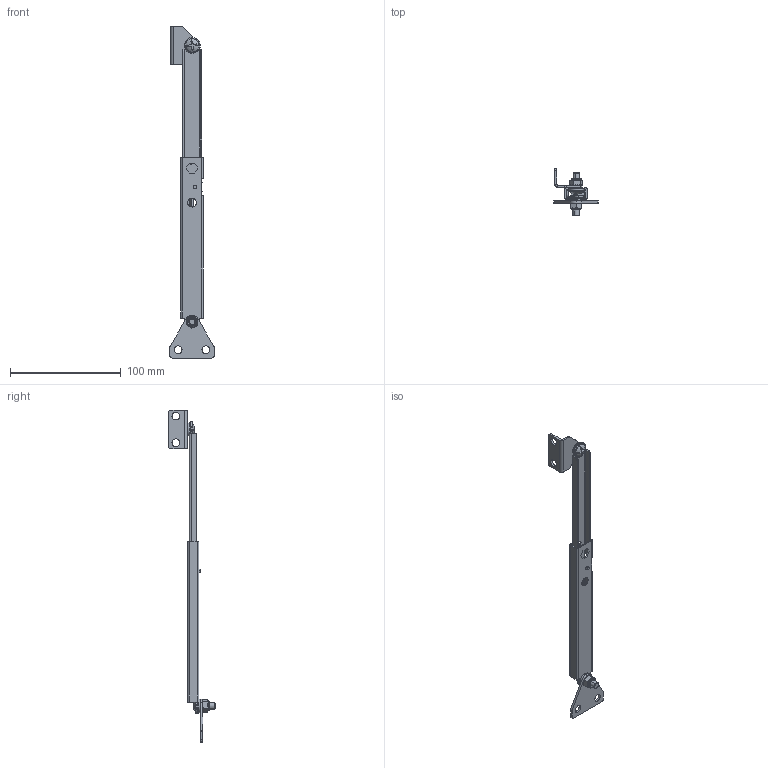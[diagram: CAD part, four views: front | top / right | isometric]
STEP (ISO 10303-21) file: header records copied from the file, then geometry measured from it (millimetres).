
FILE_DESCRIPTION (( 'STEP AP214' ), '1' );
FILE_NAME ('4.401.105.STEP', '2016-09-09T06:55:43', ( '' ), ( '' ), 'SwSTEP 2.0', 'SolidWorks 2015', '' );
FILE_SCHEMA (( 'AUTOMOTIVE_DESIGN' ));
Length unit declared in the file: millimetre
Products named in the file (11): Podk³adka M6_M6; 4.401.105.03_A; 4.401.105.04_A; 4.401.105.07_A; 4.401.105.05_A; 4.401.105.01_A; 4.401.105; 4.401.105.06_A; 4.401.105.02_A; M6x16-DIN 967_M6x16; M6-DIN985_M6
Assembly tree (13 placements, depth 2):
  4.401.105
    4.401.105.01_A
    4.401.105.05_A
    4.401.105.07_A
    4.401.105.04_A
    4.401.105.03_A
    Podk³adka M6_M6  x2
    M6-DIN985_M6  x2
    M6x16-DIN 967_M6x16  x2
    4.401.105.02_A
    4.401.105.06_A
Bounding box: 40 x 42.1 x 299.1 mm (x, y, z)
Volume: 19724.4 mm3; surface area: 30946.9 mm2
Topology: 13 solids, 13 shells, 349 faces, 843 edges, 526 vertices
Faces by surface type: plane 187, cylinder 106, cone 32, torus 20, sphere 4
Entity records: 8589 total; most frequent: CARTESIAN_POINT 1489, DIRECTION 1463, ORIENTED_EDGE 1330, EDGE_CURVE 665, AXIS2_PLACEMENT_3D 534, VERTEX_POINT 416, LINE 395, VECTOR 395
